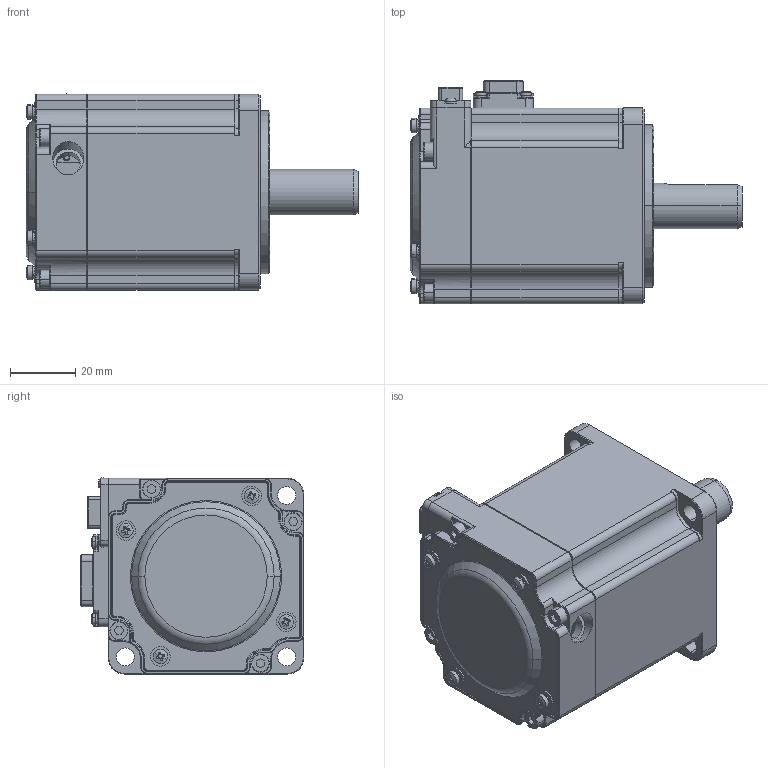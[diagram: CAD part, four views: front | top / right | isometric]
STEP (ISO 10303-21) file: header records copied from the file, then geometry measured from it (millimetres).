
FILE_DESCRIPTION (( 'STEP AP214' ), '1' );
FILE_NAME ('ACM2 梓袧萇儂 200W 眻脣.STEP', '2022-09-16T10:15:11', ( '' ), ( '' ), 'SwSTEP 2.0', 'SolidWorks 2021', '' );
FILE_SCHEMA (( 'AUTOMOTIVE_DESIGN' ));
Length unit declared in the file: millimetre
Products named in the file (1): ACM2 梓袧萇儂 200W 眻脣
Bounding box: 101.8 x 68.6 x 60.1 mm (x, y, z)
Surface area: 33102.4 mm2 (no closed solid volume)
Topology: 0 solids, 46 shells, 1015 faces, 3249 edges, 2228 vertices
Faces by surface type: plane 539, cylinder 302, cone 103, torus 42, sphere 16, bspline 13
Entity records: 47650 total; most frequent: CARTESIAN_POINT 8191, DIRECTION 6054, ORIENTED_EDGE 5318, EDGE_CURVE 3241, VERTEX_POINT 2228, AXIS2_PLACEMENT_3D 2153, VECTOR 1748, LINE 1748
